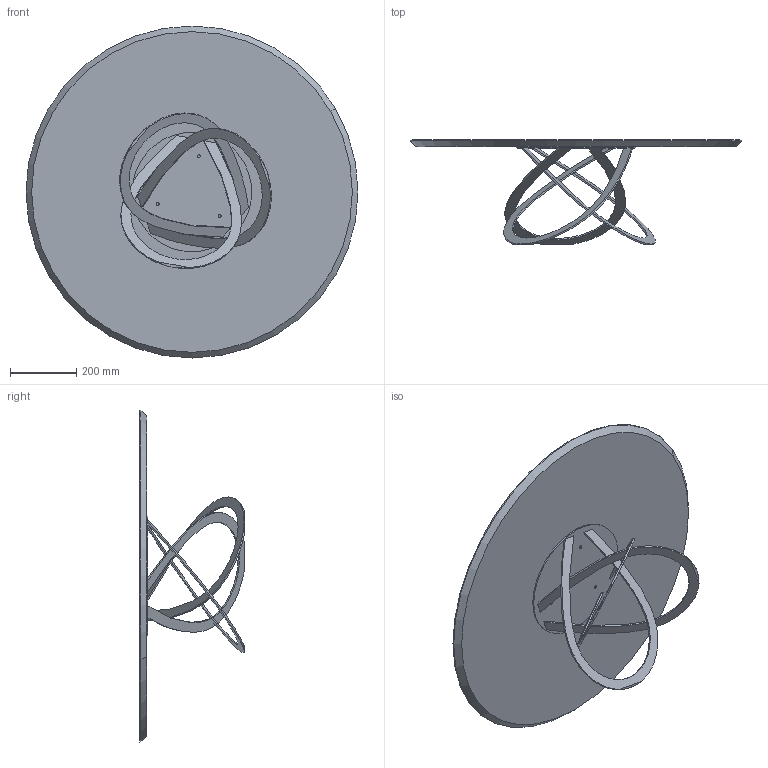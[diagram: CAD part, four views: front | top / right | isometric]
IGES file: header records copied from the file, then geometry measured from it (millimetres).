
Start section: SolidWorks IGES file using analytic representation for surfaces
Global section: file name: Y:\eforma\TECNICO\SOLIDWORKS\E-FORMA\2-TAVOLINI\FEBE LOW\02 parts\FL12W_Febe Low_d80xh32_Wood.IGS; native system: SolidWorks 2022; preprocessor: SolidWorks 2022; author: eforma.tech; date: 240806.105758; units: millimetre
Bounding box: 1000 x 313.55 x 1000 mm (x, y, z)
Volume: 16197787.7 mm3; surface area: 2061257.9 mm2
Topology: 5 solids, 5 shells, 89 faces, 206 edges, 129 vertices
Faces by surface type: plane 37, revolution 34, bspline 18
